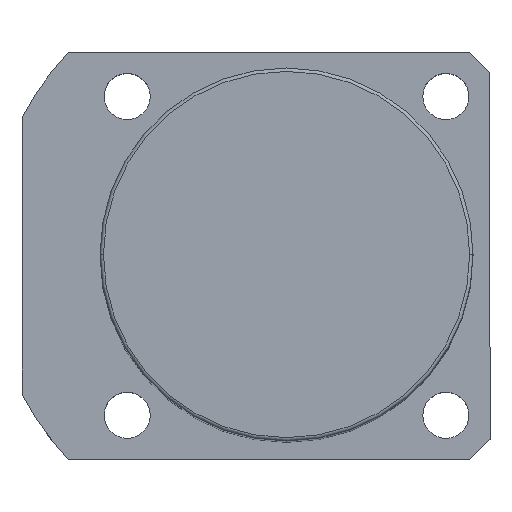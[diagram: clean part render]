
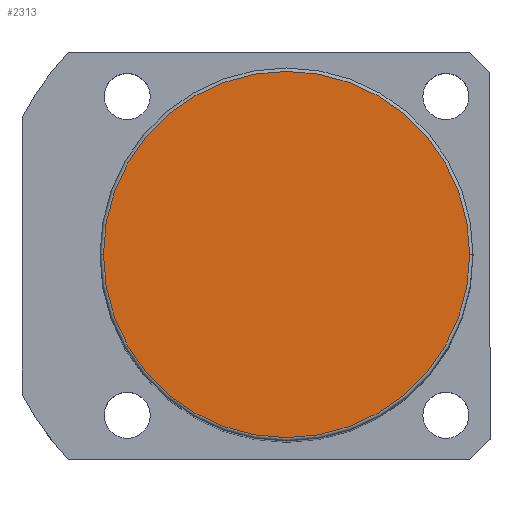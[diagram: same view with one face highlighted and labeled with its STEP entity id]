
A CAD part, top view. The second image highlights one B-rep face of the part: STEP entity #2313.
In plain terms, the highlighted planar face has unit normal (0, 0, 1).
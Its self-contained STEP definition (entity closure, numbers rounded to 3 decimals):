
#34 = CIRCLE ( 'NONE', #3948, 27. ) ;
#157 = DIRECTION ( 'NONE',  ( 1., 0., 0. ) ) ;
#158 = VERTEX_POINT ( 'NONE', #336 ) ;
#219 = AXIS2_PLACEMENT_3D ( 'NONE', #3833, #1484, #4232 ) ;
#336 = CARTESIAN_POINT ( 'NONE',  ( -27., 0., 126. ) ) ;
#1315 = CARTESIAN_POINT ( 'NONE',  ( 0., 0., 126. ) ) ;
#1416 = CARTESIAN_POINT ( 'NONE',  ( 0., 0., 126. ) ) ;
#1438 = VERTEX_POINT ( 'NONE', #4876 ) ;
#1484 = DIRECTION ( 'NONE',  ( 0., 0., 1. ) ) ;
#1805 = DIRECTION ( 'NONE',  ( 1., 0., 0. ) ) ;
#2049 = CIRCLE ( 'NONE', #219, 27. ) ;
#2313 = ADVANCED_FACE ( 'NONE', ( #4149 ), #4065, .T. ) ;
#2507 = DIRECTION ( 'NONE',  ( 0., 0., 1. ) ) ;
#3195 = ORIENTED_EDGE ( 'NONE', *, *, #3705, .T. ) ;
#3625 = AXIS2_PLACEMENT_3D ( 'NONE', #1315, #2507, #157 ) ;
#3705 = EDGE_CURVE ( 'NONE', #158, #1438, #2049, .T. ) ;
#3833 = CARTESIAN_POINT ( 'NONE',  ( 0., 0., 126. ) ) ;
#3948 = AXIS2_PLACEMENT_3D ( 'NONE', #1416, #4172, #1805 ) ;
#4065 = PLANE ( 'NONE',  #3625 ) ;
#4149 = FACE_OUTER_BOUND ( 'NONE', #4670, .T. ) ;
#4172 = DIRECTION ( 'NONE',  ( 0., 0., 1. ) ) ;
#4191 = EDGE_CURVE ( 'NONE', #1438, #158, #34, .T. ) ;
#4232 = DIRECTION ( 'NONE',  ( 1., 0., 0. ) ) ;
#4670 = EDGE_LOOP ( 'NONE', ( #5053, #3195 ) ) ;
#4876 = CARTESIAN_POINT ( 'NONE',  ( 27., 0., 126. ) ) ;
#5053 = ORIENTED_EDGE ( 'NONE', *, *, #4191, .T. ) ;
